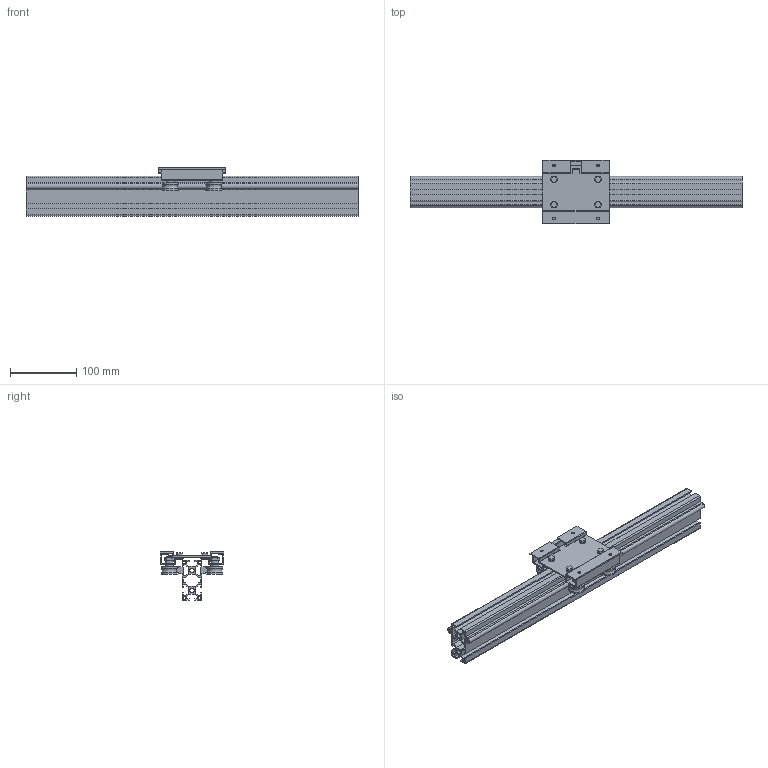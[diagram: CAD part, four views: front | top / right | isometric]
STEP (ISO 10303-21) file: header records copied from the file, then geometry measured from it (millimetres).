
FILE_DESCRIPTION((''),'2;1');
FILE_NAME('C:\Documents and Settings\土屋\My Documents\土屋移動用フォルダ\製品 (図面)\LSダウンロード用図面\新型キャリッジ\縦型LS\step形式\LS3060B.stp','2017-08-02T09:32:40',('y'),(''),'Autodesk Inventor 11','Autodesk Inventor 11','');
FILE_SCHEMA(('AUTOMOTIVE_DESIGN { 1 0 10303 214 1 1 1 1 }'));
Length unit declared in the file: millimetre
Products named in the file (3): LS3060B; LS3060Bレール; LS3060Bキャリッジ
Assembly tree (2 placements, depth 2):
  LS3060B
    LS3060Bレール
    LS3060Bキャリッジ
Bounding box: 500 x 96 x 73 mm (x, y, z)
Volume: 467982.8 mm3; surface area: 341878.3 mm2
Topology: 6 solids, 6 shells, 372 faces, 949 edges, 611 vertices
Faces by surface type: plane 221, cylinder 79, cone 60, bspline 12
Full cylindrical faces by diameter (mm): 4.2 x4, 6.8 x2, 8 x8, 10 x4, 12 x4, 12.3 x4, 24 x8
Entity records: 11216 total; most frequent: CARTESIAN_POINT 2503, ORIENTED_EDGE 1758, DIRECTION 1750, EDGE_CURVE 879, AXIS2_PLACEMENT_3D 602, VERTEX_POINT 599, VECTOR 546, LINE 546
